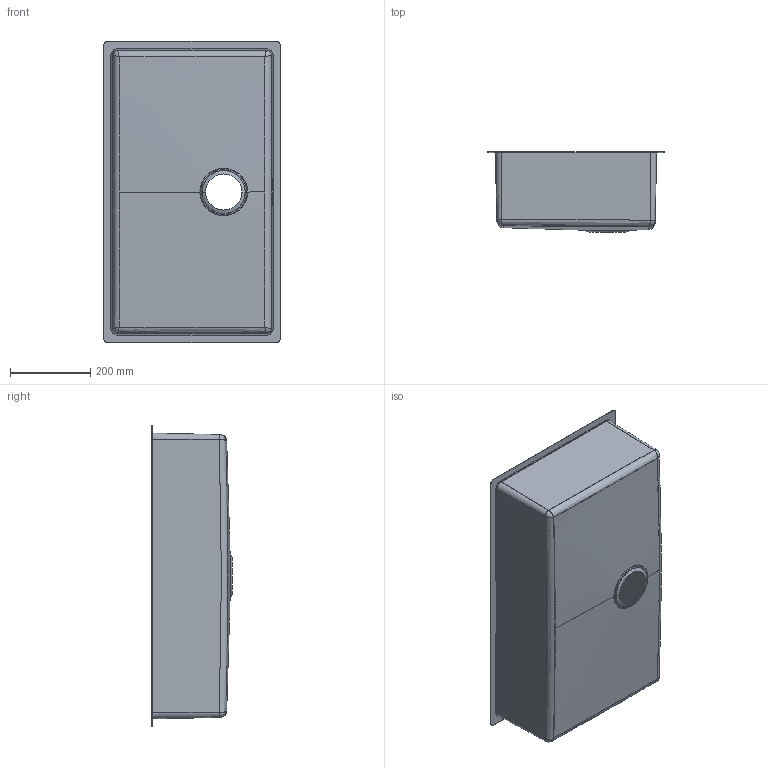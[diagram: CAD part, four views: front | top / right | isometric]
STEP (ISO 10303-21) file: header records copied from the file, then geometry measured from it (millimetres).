
FILE_DESCRIPTION (( 'STEP AP214' ), '1' );
FILE_NAME ('Morath Becken MR15-71 (SER 71) mit Rand.STEP', '2023-02-07T07:28:37', ( '' ), ( '' ), 'SwSTEP 2.0', 'SolidWorks 2022', '' );
FILE_SCHEMA (( 'AUTOMOTIVE_DESIGN' ));
Length unit declared in the file: millimetre
Products named in the file (1): Morath Becken MR15-71 (SER 71) mit Rand
Bounding box: 440 x 200.5 x 750 mm (x, y, z)
Volume: 719715.7 mm3; surface area: 1415995.5 mm2
Topology: 1 solids, 1 shells, 134 faces, 332 edges, 196 vertices
Faces by surface type: bspline 60, cylinder 36, plane 22, cone 16
Entity records: 30377 total; most frequent: CARTESIAN_POINT 27547, ORIENTED_EDGE 648, DIRECTION 506, EDGE_CURVE 324, AXIS2_PLACEMENT_3D 199, VERTEX_POINT 196, EDGE_LOOP 142, ADVANCED_FACE 134
